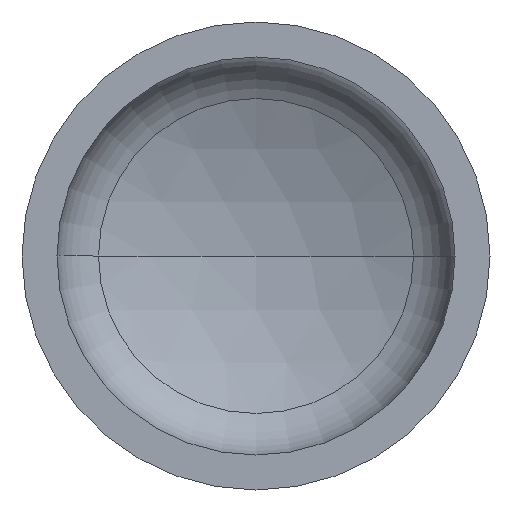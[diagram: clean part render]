
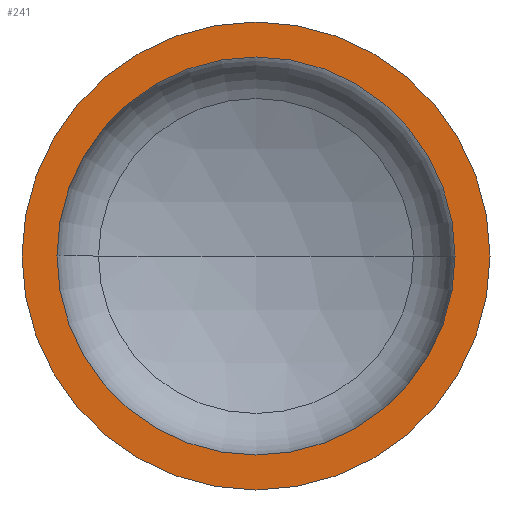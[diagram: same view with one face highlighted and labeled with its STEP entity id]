
A CAD part, front view. The second image highlights one B-rep face of the part: STEP entity #241.
In plain terms, the highlighted planar face has unit normal (0, -1, 0).
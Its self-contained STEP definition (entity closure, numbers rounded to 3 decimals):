
#4 = PLANE ( 'NONE',  #39 ) ;
#8 = ORIENTED_EDGE ( 'NONE', *, *, #84, .F. ) ;
#12 = EDGE_LOOP ( 'NONE', ( #100, #44 ) ) ;
#22 = AXIS2_PLACEMENT_3D ( 'NONE', #181, #388, #401 ) ;
#33 = DIRECTION ( 'NONE',  ( -1., 0., 0. ) ) ;
#39 = AXIS2_PLACEMENT_3D ( 'NONE', #193, #356, #33 ) ;
#43 = VERTEX_POINT ( 'NONE', #372 ) ;
#44 = ORIENTED_EDGE ( 'NONE', *, *, #83, .T. ) ;
#47 = VERTEX_POINT ( 'NONE', #232 ) ;
#50 = EDGE_LOOP ( 'NONE', ( #8, #255 ) ) ;
#57 = AXIS2_PLACEMENT_3D ( 'NONE', #300, #299, #284 ) ;
#59 = AXIS2_PLACEMENT_3D ( 'NONE', #381, #298, #297 ) ;
#67 = CIRCLE ( 'NONE', #59, 750. ) ;
#69 = AXIS2_PLACEMENT_3D ( 'NONE', #230, #229, #228 ) ;
#70 = EDGE_CURVE ( 'NONE', #117, #115, #317, .T. ) ;
#83 = EDGE_CURVE ( 'NONE', #115, #117, #67, .T. ) ;
#84 = EDGE_CURVE ( 'NONE', #47, #43, #368, .T. ) ;
#100 = ORIENTED_EDGE ( 'NONE', *, *, #70, .T. ) ;
#115 = VERTEX_POINT ( 'NONE', #198 ) ;
#117 = VERTEX_POINT ( 'NONE', #280 ) ;
#141 = CIRCLE ( 'NONE', #22, 638. ) ;
#181 = CARTESIAN_POINT ( 'NONE',  ( 0., 0., 0. ) ) ;
#193 = CARTESIAN_POINT ( 'NONE',  ( -750., 0., 0. ) ) ;
#198 = CARTESIAN_POINT ( 'NONE',  ( -750., 0., 0. ) ) ;
#228 = DIRECTION ( 'NONE',  ( 1., 0., 0. ) ) ;
#229 = DIRECTION ( 'NONE',  ( 0., -1., 0. ) ) ;
#230 = CARTESIAN_POINT ( 'NONE',  ( 0., 0., 0. ) ) ;
#232 = CARTESIAN_POINT ( 'NONE',  ( 638., 0., 0. ) ) ;
#241 = ADVANCED_FACE ( 'NONE', ( #289, #353 ), #4, .F. ) ;
#255 = ORIENTED_EDGE ( 'NONE', *, *, #319, .F. ) ;
#280 = CARTESIAN_POINT ( 'NONE',  ( 750., 0., 0. ) ) ;
#284 = DIRECTION ( 'NONE',  ( 1., 0., 0. ) ) ;
#289 = FACE_BOUND ( 'NONE', #50, .T. ) ;
#297 = DIRECTION ( 'NONE',  ( 1., 0., 0. ) ) ;
#298 = DIRECTION ( 'NONE',  ( 0., -1., 0. ) ) ;
#299 = DIRECTION ( 'NONE',  ( 0., -1., 0. ) ) ;
#300 = CARTESIAN_POINT ( 'NONE',  ( 0., 0., 0. ) ) ;
#317 = CIRCLE ( 'NONE', #69, 750. ) ;
#319 = EDGE_CURVE ( 'NONE', #43, #47, #141, .T. ) ;
#353 = FACE_OUTER_BOUND ( 'NONE', #12, .T. ) ;
#356 = DIRECTION ( 'NONE',  ( 0., 1., 0. ) ) ;
#368 = CIRCLE ( 'NONE', #57, 638. ) ;
#372 = CARTESIAN_POINT ( 'NONE',  ( -638., 0., 0. ) ) ;
#381 = CARTESIAN_POINT ( 'NONE',  ( 0., 0., 0. ) ) ;
#388 = DIRECTION ( 'NONE',  ( 0., -1., 0. ) ) ;
#401 = DIRECTION ( 'NONE',  ( 1., 0., 0. ) ) ;
